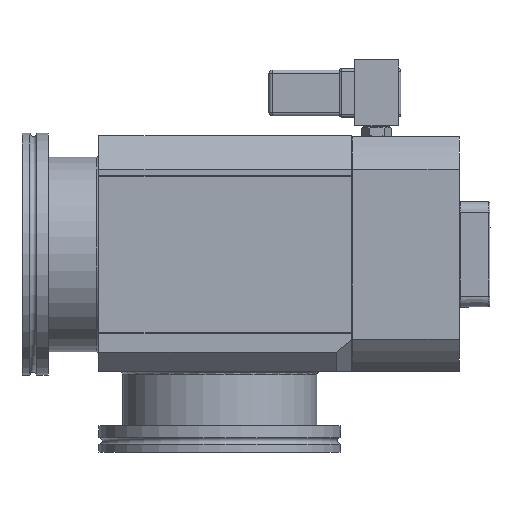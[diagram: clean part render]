
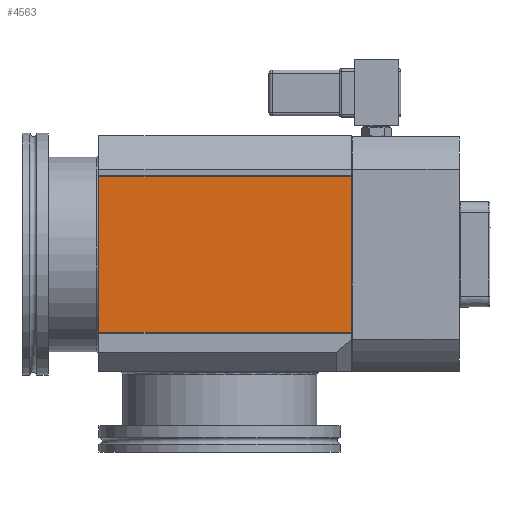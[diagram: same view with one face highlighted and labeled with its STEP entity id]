
A CAD part, left-side view. The second image highlights one B-rep face of the part: STEP entity #4563.
In plain terms, the highlighted planar face has unit normal (-1, 0, 0).
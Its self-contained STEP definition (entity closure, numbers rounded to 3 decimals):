
#4563=ADVANCED_FACE('',(#5739),#5237,.F.);
#5237=PLANE('',#16743);
#5739=FACE_OUTER_BOUND('',#6460,.T.);
#6460=EDGE_LOOP('',(#10867,#10868,#10869,#10870));
#7709=LINE('',#23763,#8715);
#7711=LINE('',#23767,#8717);
#7712=LINE('',#23769,#8718);
#7713=LINE('',#23771,#8719);
#8715=VECTOR('',#19225,1.);
#8717=VECTOR('',#19229,1.);
#8718=VECTOR('',#19230,1.);
#8719=VECTOR('',#19231,1.);
#10867=ORIENTED_EDGE('',*,*,#14750,.T.);
#10868=ORIENTED_EDGE('',*,*,#14752,.T.);
#10869=ORIENTED_EDGE('',*,*,#14753,.F.);
#10870=ORIENTED_EDGE('',*,*,#14754,.F.);
#13256=VERTEX_POINT('',#23762);
#13257=VERTEX_POINT('',#23764);
#13258=VERTEX_POINT('',#23768);
#13259=VERTEX_POINT('',#23770);
#14750=EDGE_CURVE('',#13257,#13256,#7709,.T.);
#14752=EDGE_CURVE('',#13256,#13258,#7711,.T.);
#14753=EDGE_CURVE('',#13259,#13258,#7712,.T.);
#14754=EDGE_CURVE('',#13257,#13259,#7713,.T.);
#16743=AXIS2_PLACEMENT_3D('',#23772,#19232,#19233);
#19225=DIRECTION('',(0.,-1.,0.));
#19229=DIRECTION('',(0.,0.,1.));
#19230=DIRECTION('',(0.,-1.,0.));
#19231=DIRECTION('',(0.,0.,1.));
#19232=DIRECTION('',(1.,0.,0.));
#19233=DIRECTION('',(0.,0.,-1.));
#23762=CARTESIAN_POINT('',(-53.5,3.05,-35.5));
#23763=CARTESIAN_POINT('',(-53.5,153.,-35.5));
#23764=CARTESIAN_POINT('',(-53.5,118.,-35.5));
#23767=CARTESIAN_POINT('',(-53.5,3.05,-39.));
#23768=CARTESIAN_POINT('',(-53.5,3.05,35.5));
#23769=CARTESIAN_POINT('',(-53.5,153.,35.5));
#23770=CARTESIAN_POINT('',(-53.5,118.,35.5));
#23771=CARTESIAN_POINT('',(-53.5,118.,-39.));
#23772=CARTESIAN_POINT('',(-53.5,153.,-39.));
